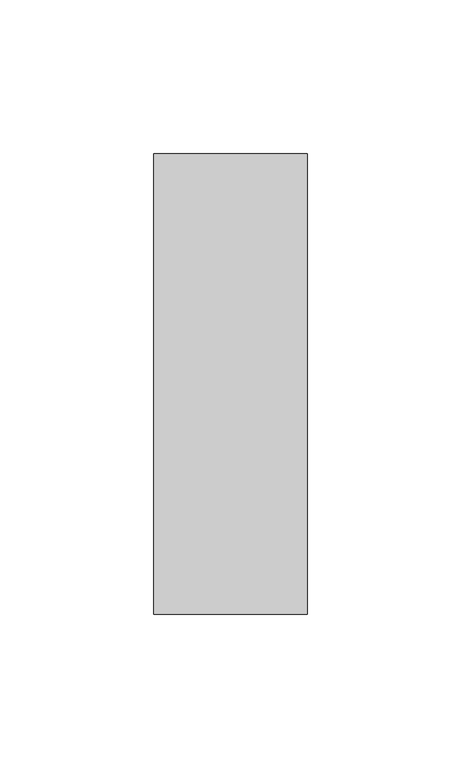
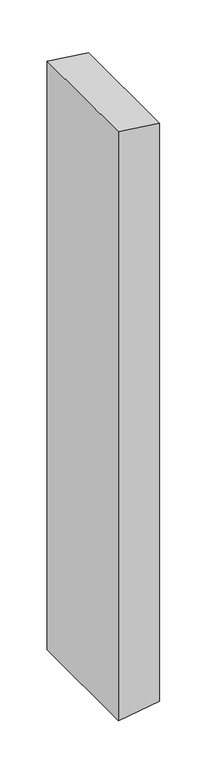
"""IFC4 building model written with IfcOpenShell, lengths in millimetres: member geometry, Прямоугольный импост : 50 x 150 мм."""

from ifc_helpers import new_model, si_unit, frame, origin, place, context, project, spatial, polyline, outline, extrude, source, transform, mapped, element, save


def member_6a574bd4(model_context):
    return source(origin(), model_context, "Body", "SweptSolid", [
        extrude(outline(polyline([(0.0, 0.0), (6.5540056, -50.0), (-750.4741203, -50.0), (-743.183294, 0.0), (0.0, 0.0)])), frame((0.0, -75.0, 0.0), z_axis=(0.0, 1.0, 0.0), x_axis=(0.0, 0.0, 1.0)), (0.0, 0.0, 1.0), 150.0),
    ])


if __name__ == "__main__":
    model = new_model("IFC4")
    model_context = context("Model", 3, world=origin())
    ifc_project = project(units=[si_unit("LENGTHUNIT", "METRE", prefix="MILLI")], contexts=[model_context])
    site = spatial("IfcSite", under=ifc_project)
    building = spatial("IfcBuilding", under=site)
    placement = place(None, origin())
    member_shape = member_6a574bd4(model_context)
    element("IfcMember", 1, ObjectType="Прямоугольный импост : 50 x 150 мм", at=placement, inside=building, context=model_context, shape_type="MappedRepresentation", body=[
        mapped(member_shape, transform((0.0, 0.0, 0.0), x_axis=(1.0, 0.0, 0.0), y_axis=(0.0, 1.0, 0.0), z_axis=(0.0, 0.0, 1.0))),
    ])
    save(model, "model.ifc")
